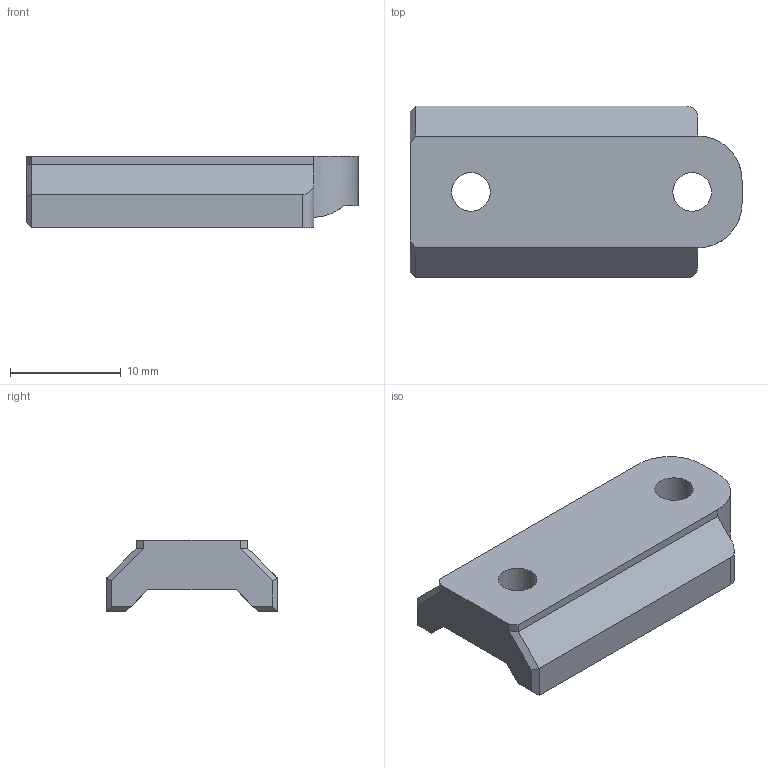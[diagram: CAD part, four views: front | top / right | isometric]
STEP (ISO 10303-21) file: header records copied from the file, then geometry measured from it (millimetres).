
FILE_DESCRIPTION(/* description */ ('Unknown','CAx-IF Rec.Pracs.---Representation and Presentation of Product Manufacturing Information (PMI)---4.0---2014-10-13','CAx-IF Rec.Pracs.---3D Tessellated Geometry---0.4---2014-09-14','2;1'),/* implementation_level */ '2;1');
FILE_NAME(/* name */ 'Insert_Wall_Mount_VC',/* time_stamp */ '2025-01-20T11:43:57+01:00',/* author */ ('Unknown'),/* organization */ ('Unknown'),/* preprocessor_version */ 'ST-DEVELOPER v19.4',/* originating_system */ 'Solid Edge',/* authorisation */ 'Unknown');
FILE_SCHEMA (('AP242_MANAGED_MODEL_BASED_3D_ENGINEERING_MIM_LF { 1 0 10303 442 1 1 4 }'));
Length unit declared in the file: millimetre
Products named in the file (1): Insert_Wall_Mount_VC
Bounding box: 30 x 15.5 x 6.45 mm (x, y, z)
Volume: 1814.2 mm3; surface area: 1367.6 mm2
Topology: 1 solids, 1 shells, 36 faces, 92 edges, 58 vertices
Faces by surface type: plane 28, cylinder 6, cone 2
Full cylindrical faces by diameter (mm): 3.5 x2
Entity records: 1070 total; most frequent: CARTESIAN_POINT 180, DIRECTION 178, ORIENTED_EDGE 172, EDGE_CURVE 86, LINE 70, VECTOR 70, VERTEX_POINT 56, AXIS2_PLACEMENT_3D 54
